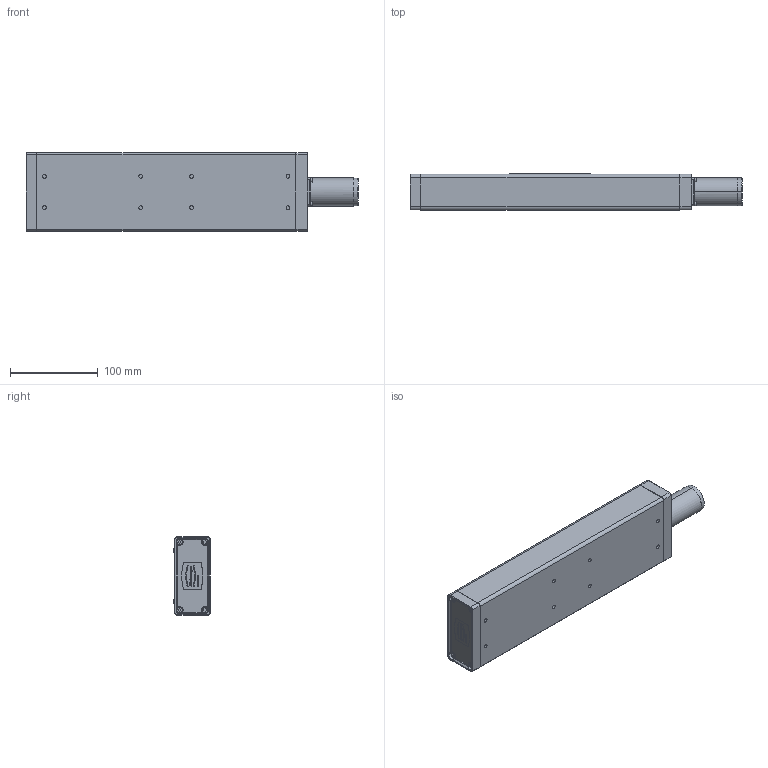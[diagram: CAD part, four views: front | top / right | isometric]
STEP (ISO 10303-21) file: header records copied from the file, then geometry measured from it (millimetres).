
FILE_DESCRIPTION((''),'2;1');
FILE_NAME('STM_LTP90_552333_ASM','2026-04-24T08:17:29',('profile'),(''),'CREO PARAMETRIC BY PTC INC, 2025123','CREO PARAMETRIC BY PTC INC, 2025123','');
FILE_SCHEMA(('AP242_MANAGED_MODEL_BASED_3D_ENGINEERING_MIM_LF { 1 0 10303 442 1 1 4 }'));
Length unit declared in the file: millimetre
Products named in the file (7): STM_GRUND_552331; AL_ALUMINIUM; STM_SCHIE_552330; STM_ABDEC_552329; STM_LTP90_552333_ASM
Assembly tree (3 placements, depth 2):
  AL_ALUMINIUM
  AL_ALUMINIUM
  AL_ALUMINIUM
  STM_LTP90_552333_ASM
    STM_GRUND_552331
    STM_SCHIE_552330
    STM_ABDEC_552329
Bounding box: 379 x 41.3 x 90 mm (x, y, z)
Volume: 931914.8 mm3; surface area: 169240.4 mm2
Topology: 3 solids, 3 shells, 903 faces, 2189 edges, 1382 vertices
Faces by surface type: plane 519, cylinder 181, extrusion 105, cone 98
Entity records: 40005 total; most frequent: CARTESIAN_POINT 10091, ORIENTED_EDGE 4378, DIRECTION 4207, PRESENTATION_STYLE_ASSIGNMENT 2300, STYLED_ITEM 2229, CURVE_STYLE 2226, EDGE_CURVE 2189, VECTOR 1615
